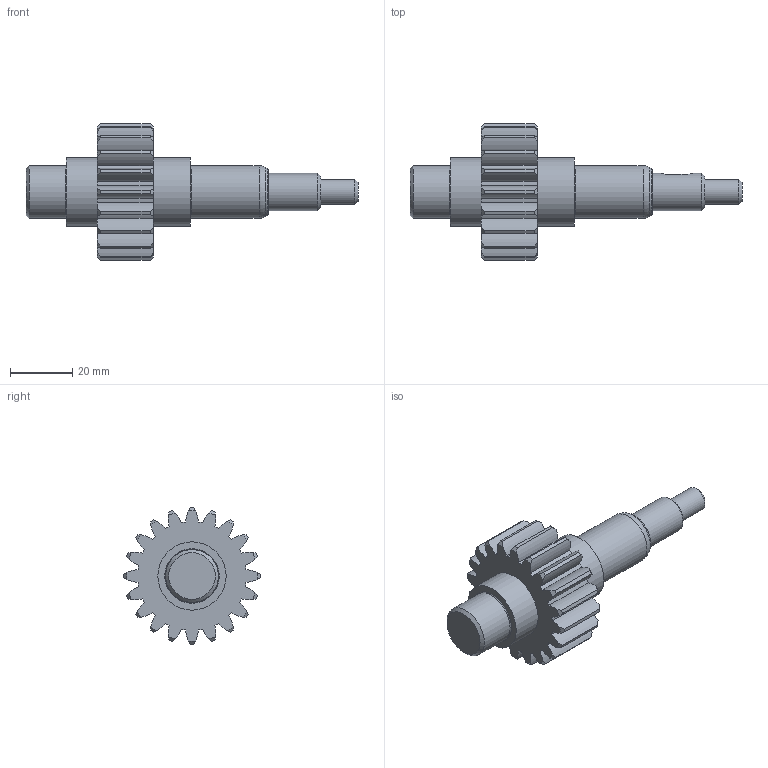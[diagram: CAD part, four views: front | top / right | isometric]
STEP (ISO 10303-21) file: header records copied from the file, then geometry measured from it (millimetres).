
FILE_DESCRIPTION(/* description */ (''),/* implementation_level */ '2;1');
FILE_NAME(/* name */ 'C:\Users\net\Desktop\391203E1026.stp',/* time_stamp */ '2019-12-21T11:32:52+09:00',/* author */ ('net'),/* organization */ (''),/* preprocessor_version */ 'ST-DEVELOPER v15.2',/* originating_system */ 'Autodesk Inventor 2014',/* authorisation */ '');
FILE_SCHEMA (('AUTOMOTIVE_DESIGN { 1 0 10303 214 3 1 1 }'));
Length unit declared in the file: millimetre
Products named in the file (1): 부품1
Bounding box: 107 x 44 x 44 mm (x, y, z)
Volume: 41616.1 mm3; surface area: 11257.8 mm2
Topology: 1 solids, 1 shells, 147 faces, 411 edges, 272 vertices
Faces by surface type: cylinder 88, cone 44, plane 11, torus 4
Full cylindrical faces by diameter (mm): 8 x1, 12 x1, 17 x2, 22 x2
Entity records: 4875 total; most frequent: CARTESIAN_POINT 1088, DIRECTION 828, ORIENTED_EDGE 788, EDGE_CURVE 394, AXIS2_PLACEMENT_3D 370, VERTEX_POINT 270, CIRCLE 222, EDGE_LOOP 168
